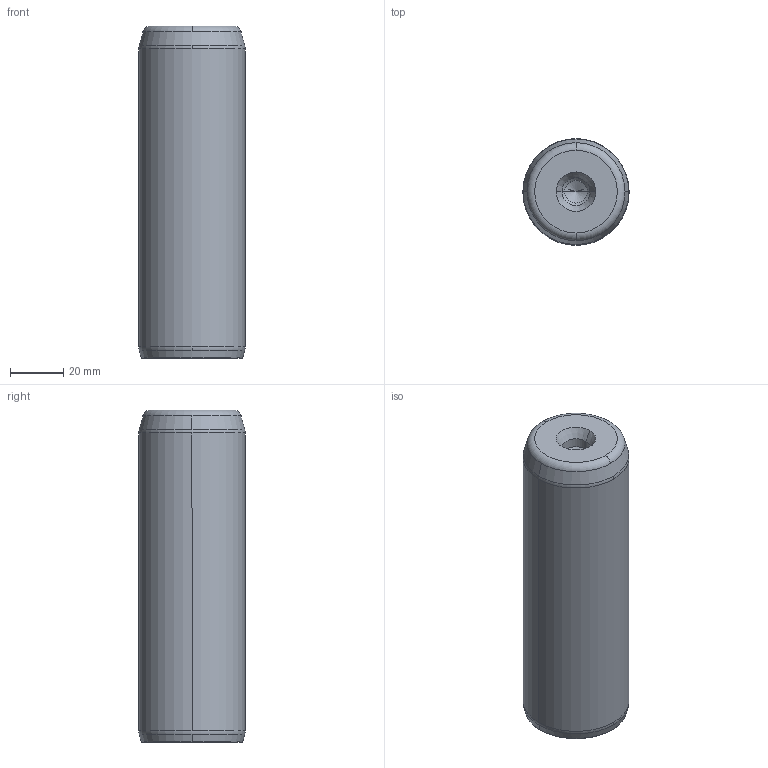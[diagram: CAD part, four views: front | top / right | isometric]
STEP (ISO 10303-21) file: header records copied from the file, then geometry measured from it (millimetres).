
FILE_DESCRIPTION((''),'2;1');
FILE_NAME('P10_040_125.stp','2008-12-23T15:22:56',(''),(''),'Mechanical Desktop 2009','Mechanical Desktop 2009',', , ');
FILE_SCHEMA(('CONFIG_CONTROL_DESIGN'));
Length unit declared in the file: millimetre
Products named in the file (5): Product; ProductAA; blmdl1; ProductA; blmdl1A
Assembly tree (2 placements, depth 3):
  Product
    ProductAA
      blmdl1
  ProductA
  blmdl1A
Bounding box: 40 x 40 x 125 mm (x, y, z)
Volume: 153575.5 mm3; surface area: 18551.7 mm2
Topology: 1 solids, 1 shells, 26 faces, 66 edges, 41 vertices
Faces by surface type: cone 10, torus 8, cylinder 6, plane 2
Entity records: 1012 total; most frequent: DIRECTION 170, CARTESIAN_POINT 134, ORIENTED_EDGE 128, AXIS2_PLACEMENT_3D 77, EDGE_CURVE 64, CIRCLE 48, VERTEX_POINT 41, EDGE_LOOP 27
